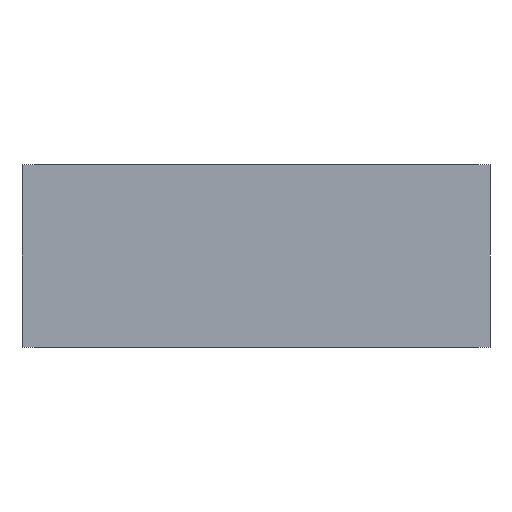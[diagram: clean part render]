
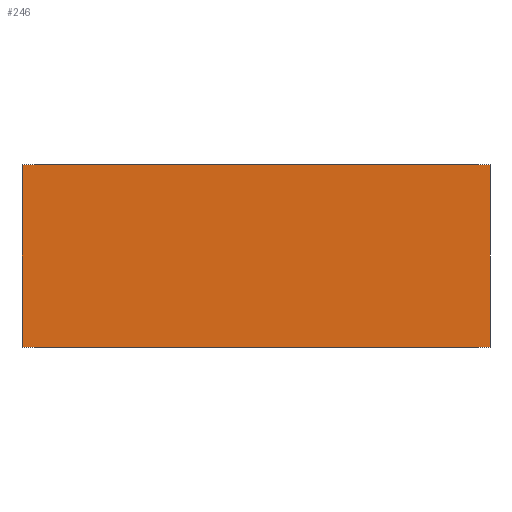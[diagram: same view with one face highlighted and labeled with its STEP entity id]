
A CAD part, front view. The second image highlights one B-rep face of the part: STEP entity #246.
In plain terms, the highlighted planar face has unit normal (0, -1, 0).
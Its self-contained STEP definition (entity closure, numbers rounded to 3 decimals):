
#34 = VERTEX_POINT ( 'NONE', #62 ) ;
#35 = VERTEX_POINT ( 'NONE', #63 ) ;
#44 = VERTEX_POINT ( 'NONE', #72 ) ;
#52 = VERTEX_POINT ( 'NONE', #80 ) ;
#62 = CARTESIAN_POINT ( 'NONE',  ( -154., 0., 0. ) ) ;
#63 = CARTESIAN_POINT ( 'NONE',  ( 154., 0., 120. ) ) ;
#72 = CARTESIAN_POINT ( 'NONE',  ( -154., 0., 120. ) ) ;
#80 = CARTESIAN_POINT ( 'NONE',  ( 154., 0., 0. ) ) ;
#127 = PLANE ( 'NONE',  #262 ) ;
#131 = CARTESIAN_POINT ( 'NONE',  ( -154., 0., 120. ) ) ;
#141 = DIRECTION ( 'NONE',  ( 0., 1., 0. ) ) ;
#142 = DIRECTION ( 'NONE',  ( -1., 0., 0. ) ) ;
#189 = CARTESIAN_POINT ( 'NONE',  ( -154., 0., 120. ) ) ;
#192 = DIRECTION ( 'NONE',  ( 1., 0., 0. ) ) ;
#218 = CARTESIAN_POINT ( 'NONE',  ( -154., 0., 0. ) ) ;
#219 = DIRECTION ( 'NONE',  ( 1., 0., 0. ) ) ;
#222 = CARTESIAN_POINT ( 'NONE',  ( -154., 0., 120. ) ) ;
#223 = DIRECTION ( 'NONE',  ( 0., 0., -1. ) ) ;
#246 = ADVANCED_FACE ( 'NONE', ( #534 ), #127, .F. ) ;
#262 = AXIS2_PLACEMENT_3D ( 'NONE', #131, #141, #142 ) ;
#277 = EDGE_CURVE ( 'NONE', #44, #35, #435, .T. ) ;
#294 = EDGE_CURVE ( 'NONE', #34, #52, #574, .T. ) ;
#298 = EDGE_CURVE ( 'NONE', #44, #34, #577, .T. ) ;
#311 = EDGE_CURVE ( 'NONE', #35, #52, #585, .T. ) ;
#349 = DIRECTION ( 'NONE',  ( 0., 0., -1. ) ) ;
#350 = CARTESIAN_POINT ( 'NONE',  ( 154., 0., 120. ) ) ;
#417 = ORIENTED_EDGE ( 'NONE', *, *, #277, .F. ) ;
#418 = ORIENTED_EDGE ( 'NONE', *, *, #298, .T. ) ;
#435 = LINE ( 'NONE', #189, #451 ) ;
#451 = VECTOR ( 'NONE', #192, 1000. ) ;
#472 = ORIENTED_EDGE ( 'NONE', *, *, #294, .T. ) ;
#473 = ORIENTED_EDGE ( 'NONE', *, *, #311, .F. ) ;
#524 = EDGE_LOOP ( 'NONE', ( #472, #473, #417, #418 ) ) ;
#534 = FACE_OUTER_BOUND ( 'NONE', #524, .T. ) ;
#574 = LINE ( 'NONE', #218, #575 ) ;
#575 = VECTOR ( 'NONE', #219, 1000. ) ;
#577 = LINE ( 'NONE', #222, #578 ) ;
#578 = VECTOR ( 'NONE', #223, 1000. ) ;
#585 = LINE ( 'NONE', #350, #586 ) ;
#586 = VECTOR ( 'NONE', #349, 1000. ) ;
